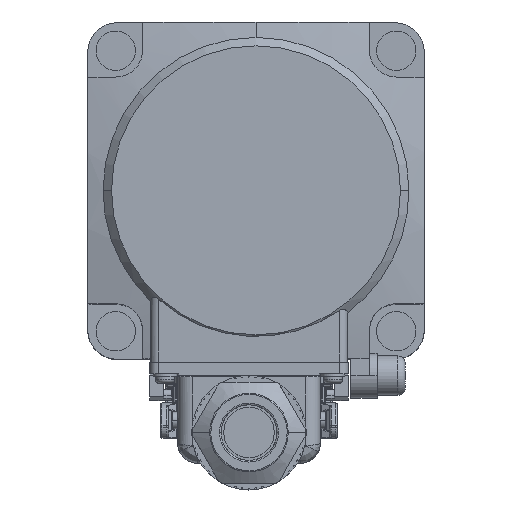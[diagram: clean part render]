
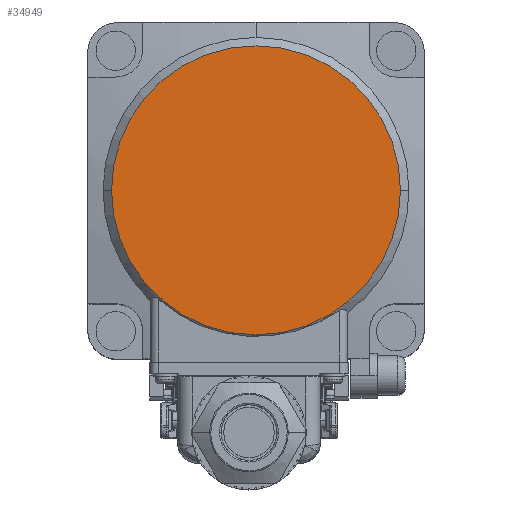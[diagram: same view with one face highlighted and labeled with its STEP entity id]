
A CAD part, top view. The second image highlights one B-rep face of the part: STEP entity #34949.
In plain terms, the highlighted planar face has unit normal (0, 0, 1).
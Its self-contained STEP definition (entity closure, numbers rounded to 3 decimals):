
#782 = ORIENTED_EDGE ( 'NONE', *, *, #36942, .T. ) ;
#2347 = CARTESIAN_POINT ( 'NONE',  ( 0., 0., 74.5 ) ) ;
#2989 = VERTEX_POINT ( 'NONE', #21439 ) ;
#3290 = DIRECTION ( 'NONE',  ( 1., 0., 0. ) ) ;
#4117 = CARTESIAN_POINT ( 'NONE',  ( 0., 0., 74.5 ) ) ;
#4661 = VERTEX_POINT ( 'NONE', #17216 ) ;
#6633 = AXIS2_PLACEMENT_3D ( 'NONE', #4117, #18178, #15714 ) ;
#6771 = DIRECTION ( 'NONE',  ( -1., 0., 0. ) ) ;
#10210 = CIRCLE ( 'NONE', #6633, 25.75 ) ;
#14258 = ORIENTED_EDGE ( 'NONE', *, *, #16250, .T. ) ;
#15007 = DIRECTION ( 'NONE',  ( 0., 0., -1. ) ) ;
#15714 = DIRECTION ( 'NONE',  ( 1., 0., 0. ) ) ;
#16109 = AXIS2_PLACEMENT_3D ( 'NONE', #26097, #15007, #6771 ) ;
#16250 = EDGE_CURVE ( 'NONE', #2989, #4661, #25978, .T. ) ;
#17216 = CARTESIAN_POINT ( 'NONE',  ( -25.75, 0., 74.5 ) ) ;
#17822 = PLANE ( 'NONE',  #16109 ) ;
#18178 = DIRECTION ( 'NONE',  ( 0., 0., 1. ) ) ;
#21439 = CARTESIAN_POINT ( 'NONE',  ( 25.75, 0., 74.5 ) ) ;
#22639 = EDGE_LOOP ( 'NONE', ( #782, #14258 ) ) ;
#25978 = CIRCLE ( 'NONE', #35572, 25.75 ) ;
#26097 = CARTESIAN_POINT ( 'NONE',  ( 0., 0., 74.5 ) ) ;
#26346 = DIRECTION ( 'NONE',  ( 0., 0., 1. ) ) ;
#34535 = FACE_OUTER_BOUND ( 'NONE', #22639, .T. ) ;
#34949 = ADVANCED_FACE ( 'NONE', ( #34535 ), #17822, .F. ) ;
#35572 = AXIS2_PLACEMENT_3D ( 'NONE', #2347, #26346, #3290 ) ;
#36942 = EDGE_CURVE ( 'NONE', #4661, #2989, #10210, .T. ) ;
